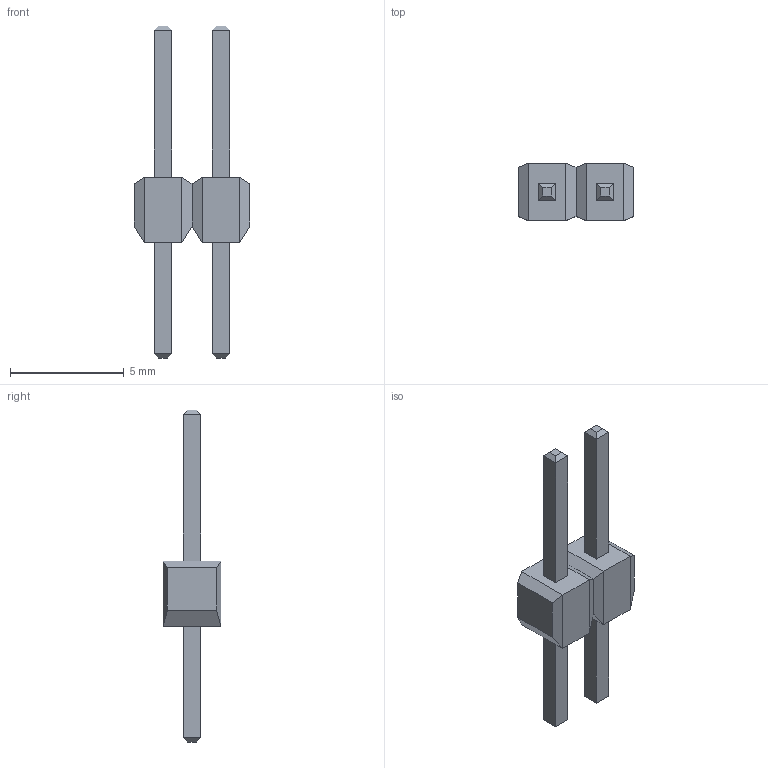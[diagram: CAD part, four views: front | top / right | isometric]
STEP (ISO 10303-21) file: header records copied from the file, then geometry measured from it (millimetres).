
FILE_DESCRIPTION(('STEP AP214'),'1');
FILE_NAME('CON2_1X2_P100UM_HDR_TYC','2021-11-21T13:00:49',(''),(''),'','','');
FILE_SCHEMA(('AUTOMOTIVE_DESIGN'));
Length unit declared in the file: millimetre
Products named in the file (1): product
Bounding box: 5.08 x 2.54 x 14.58 mm (x, y, z)
Volume: 47.3 mm3; surface area: 140.2 mm2
Topology: 5 solids, 5 shells, 66 faces, 132 edges, 76 vertices
Faces by surface type: plane 66
Entity records: 1605 total; most frequent: DIRECTION 266, ORIENTED_EDGE 264, CARTESIAN_POINT 143, EDGE_CURVE 132, LINE 132, VECTOR 132, VERTEX_POINT 76, AXIS2_PLACEMENT_3D 67
